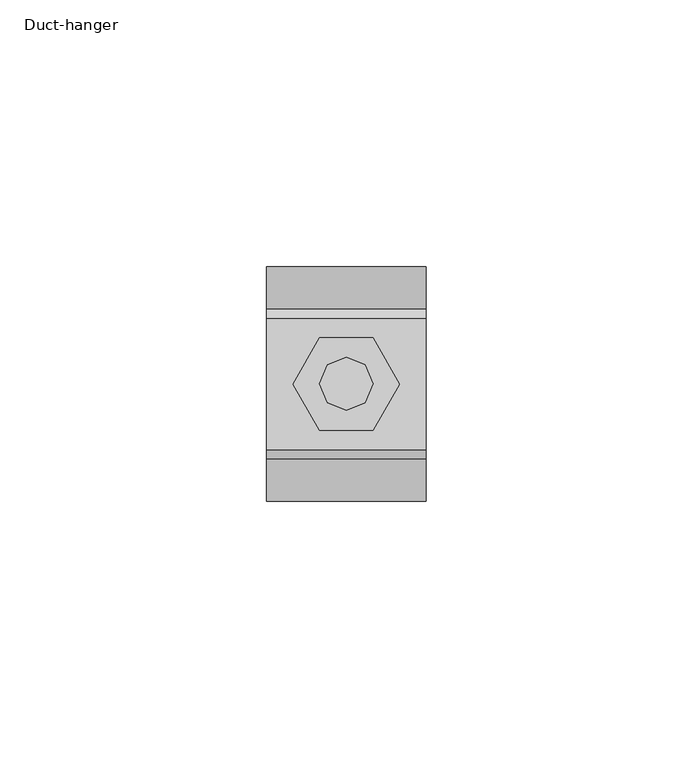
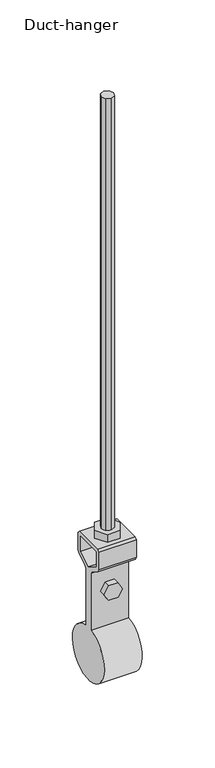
"""IFC4 building model written with IfcOpenShell, lengths in millimetres: proxy geometry, Duct-hanger : Φ44."""

from ifc_helpers import new_model, si_unit, point, frame, frame_2d, origin, place, context, project, spatial, polyline, circle_curve, trimmed, segment, composite_curve, outline, extrude, source, transform, mapped, element, save


def duct_hanger_d072a3c7(model_context):
    return source(origin(), model_context, "Body", "SweptSolid", [
        extrude(outline(polyline([(3.5351563, 3.5351563), (5.0003052, 0.0), (3.5351563, -3.5351563), (0.0, -5.0), (-3.5354614, -3.5351563), (-5.0, 0.0), (-3.5354614, 3.5351563), (0.0, 5.0), (3.5351563, 3.5351563)])), frame((0.0, 0.0, -368.9859535), z_axis=(0.0, 0.0, 1.0), x_axis=(1.0, 0.0, 0.0)), (0.0, 0.0, 1.0), 368.9859535),
        extrude(outline(polyline([(5.0, 8.659668), (10.0, 0.0), (5.0, -8.659668), (-5.0, -8.659668), (-10.0, 0.0), (-5.0, 8.659668), (5.0, 8.659668)])), frame((0.0, 0.0, -368.9859535), z_axis=(0.0, 0.0, 1.0), x_axis=(1.0, 0.0, 0.0)), (0.0, 0.0, 1.0), 6.6101074),
        extrude(outline(polyline([(-406.0012832, -3.5931396), (-412.2247329, -7.1862793), (-418.4481826, -3.5931396), (-418.4481826, 3.5931396), (-412.2247329, 7.1862793), (-406.0012832, 3.5931396), (-406.0012832, -3.5931396)])), frame((0.0, -8.2446289, 0.0), z_axis=(0.0, 1.0, 0.0), x_axis=(0.0, 0.0, 1.0)), (0.0, 0.0, 1.0), 16.4892578),
        extrude(outline(composite_curve([segment(polyline([(14.0234375, -370.6546547), (14.0234375, -385.3043129), (12.8845215, -387.3706581), (4.6337891, -392.5784828), (3.494873, -394.6454383), (3.494873, -442.2247329)]), True, "CONTINUOUS"), segment(trimmed(circle_curve(frame_2d((0.0, -463.9453651)), 22.0), [point((3.494873, -442.2247329))], [point((-3.494873, -442.2247329))], False, "CARTESIAN"), True, "CONTINUOUS"), segment(polyline([(-3.494873, -442.2247329), (-3.494873, -394.6454383), (-4.6337891, -392.5784828), (-12.8845215, -387.3706581), (-14.0234375, -385.3043129), (-14.0234375, -370.6546547), (-12.3547363, -368.9859535), (12.3547363, -368.9859535), (14.0234375, -370.6546547)]), True, "CONTINUOUS")], self_intersect=False), holes=[polyline([(0.0, -391.2523298), (10.7531738, -384.4656898), (10.7531738, -372.2394325), (-10.7531738, -372.2394325), (-10.7531738, -384.4656898), (0.0, -391.2523298)])]), frame((-15.0, 0.0, 0.0), z_axis=(1.0, 0.0, 0.0), x_axis=(0.0, 1.0, 0.0)), (0.0, 0.0, 1.0), 30.0),
    ])


if __name__ == "__main__":
    model = new_model("IFC4")
    model_context = context("Model", 3, world=origin())
    ifc_project = project(units=[si_unit("LENGTHUNIT", "METRE", prefix="MILLI")], contexts=[model_context])
    site = spatial("IfcSite", under=ifc_project)
    building = spatial("IfcBuilding", under=site)
    placement = place(None, origin())
    duct_hanger_shape = duct_hanger_d072a3c7(model_context)
    element("IfcBuildingElementProxy", 1, Name="Duct-hanger : Φ44", ObjectType="Duct-hanger : Φ44", at=placement, inside=building, context=model_context, shape_type="MappedRepresentation", body=[
        mapped(duct_hanger_shape, transform((0.0, 0.0, 0.0), x_axis=(1.0, 0.0, 0.0), y_axis=(0.0, 1.0, 0.0), z_axis=(0.0, 0.0, 1.0))),
    ])
    save(model, "model.ifc")
